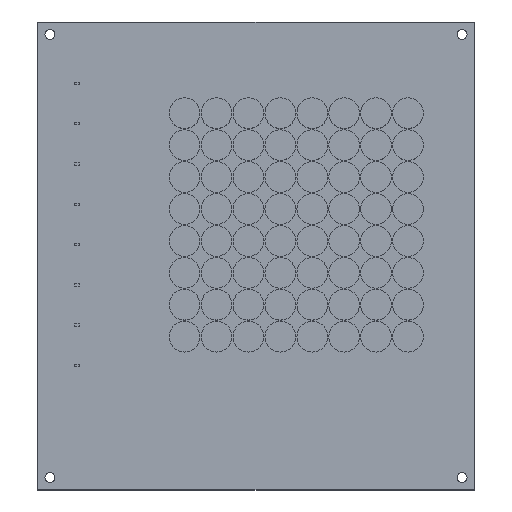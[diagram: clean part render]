
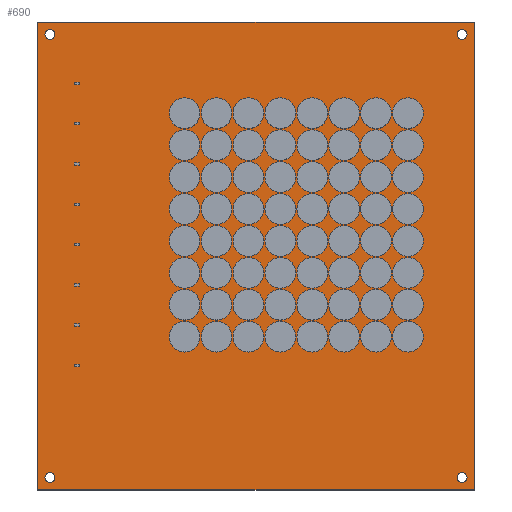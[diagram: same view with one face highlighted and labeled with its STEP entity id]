
A CAD part, top view. The second image highlights one B-rep face of the part: STEP entity #690.
In plain terms, the highlighted planar face has unit normal (0, 0, 1).
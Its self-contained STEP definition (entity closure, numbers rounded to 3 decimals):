
#99 = VERTEX_POINT ( 'NONE', #14305 ) ;
#598 = ORIENTED_EDGE ( 'NONE', *, *, #9188, .F. ) ;
#690 = ADVANCED_FACE ( 'NONE', ( #31261, #34228, #20511, #37862, #41564 ), #34453, .T. ) ;
#1284 = CARTESIAN_POINT ( 'NONE',  ( 57.5, -85.5, 0. ) ) ;
#1341 = EDGE_CURVE ( 'NONE', #13573, #10717, #11696, .T. ) ;
#1380 = DIRECTION ( 'NONE',  ( 0., 0., 1. ) ) ;
#1495 = EDGE_CURVE ( 'NONE', #3597, #99, #2801, .T. ) ;
#1526 = VERTEX_POINT ( 'NONE', #24731 ) ;
#1972 = CIRCLE ( 'NONE', #37694, 1.6 ) ;
#2392 = EDGE_CURVE ( 'NONE', #37556, #41852, #1972, .T. ) ;
#2581 = CARTESIAN_POINT ( 'NONE',  ( 51.9, 61.5, 0. ) ) ;
#2801 = LINE ( 'NONE', #16768, #43102 ) ;
#3342 = CARTESIAN_POINT ( 'NONE',  ( 55.1, -81.5, 0. ) ) ;
#3524 = LINE ( 'NONE', #35296, #15181 ) ;
#3597 = VERTEX_POINT ( 'NONE', #33412 ) ;
#3746 = DIRECTION ( 'NONE',  ( 1., 0., 0. ) ) ;
#4304 = ORIENTED_EDGE ( 'NONE', *, *, #2392, .F. ) ;
#4359 = CARTESIAN_POINT ( 'NONE',  ( -79.5, 61.5, 0. ) ) ;
#5525 = CARTESIAN_POINT ( 'NONE',  ( -77.9, -81.5, 0. ) ) ;
#6433 = DIRECTION ( 'NONE',  ( 1., 0., 0. ) ) ;
#8288 = EDGE_CURVE ( 'NONE', #44696, #11827, #3524, .T. ) ;
#8439 = CARTESIAN_POINT ( 'NONE',  ( 53.5, -81.5, 0. ) ) ;
#9002 = EDGE_CURVE ( 'NONE', #41852, #37556, #19122, .T. ) ;
#9146 = DIRECTION ( 'NONE',  ( 0., 0., 1. ) ) ;
#9188 = EDGE_CURVE ( 'NONE', #15100, #42547, #40249, .T. ) ;
#9641 = DIRECTION ( 'NONE',  ( 1., 0., 0. ) ) ;
#10211 = ORIENTED_EDGE ( 'NONE', *, *, #8288, .T. ) ;
#10632 = DIRECTION ( 'NONE',  ( -1., 0., 0. ) ) ;
#10687 = DIRECTION ( 'NONE',  ( 1., 0., 0. ) ) ;
#10717 = VERTEX_POINT ( 'NONE', #39480 ) ;
#11696 = CIRCLE ( 'NONE', #14635, 1.6 ) ;
#11827 = VERTEX_POINT ( 'NONE', #31717 ) ;
#12694 = CARTESIAN_POINT ( 'NONE',  ( 53.5, 61.5, 0. ) ) ;
#12820 = LINE ( 'NONE', #26750, #13462 ) ;
#13372 = AXIS2_PLACEMENT_3D ( 'NONE', #14081, #20444, #3746 ) ;
#13462 = VECTOR ( 'NONE', #20087, 1000. ) ;
#13573 = VERTEX_POINT ( 'NONE', #2581 ) ;
#14081 = CARTESIAN_POINT ( 'NONE',  ( 53.5, 61.5, 0. ) ) ;
#14305 = CARTESIAN_POINT ( 'NONE',  ( 57.5, -85.5, 0. ) ) ;
#14635 = AXIS2_PLACEMENT_3D ( 'NONE', #12694, #40312, #43328 ) ;
#14878 = DIRECTION ( 'NONE',  ( 0., 0., 1. ) ) ;
#15100 = VERTEX_POINT ( 'NONE', #31493 ) ;
#15181 = VECTOR ( 'NONE', #10632, 1000. ) ;
#16269 = DIRECTION ( 'NONE',  ( 1., 0., 0. ) ) ;
#16768 = CARTESIAN_POINT ( 'NONE',  ( -83.5, -85.5, 0. ) ) ;
#16902 = EDGE_LOOP ( 'NONE', ( #598, #33145 ) ) ;
#17432 = CARTESIAN_POINT ( 'NONE',  ( 53.5, -81.5, 0. ) ) ;
#18534 = CIRCLE ( 'NONE', #36774, 1.6 ) ;
#19122 = CIRCLE ( 'NONE', #44677, 1.6 ) ;
#20087 = DIRECTION ( 'NONE',  ( 0., -1., 0. ) ) ;
#20318 = EDGE_LOOP ( 'NONE', ( #24743, #30322 ) ) ;
#20444 = DIRECTION ( 'NONE',  ( 0., 0., 1. ) ) ;
#20511 = FACE_OUTER_BOUND ( 'NONE', #32565, .T. ) ;
#21384 = DIRECTION ( 'NONE',  ( 0., 1., 0. ) ) ;
#21579 = DIRECTION ( 'NONE',  ( 1., 0., 0. ) ) ;
#21687 = DIRECTION ( 'NONE',  ( 1., 0., 0. ) ) ;
#21843 = CARTESIAN_POINT ( 'NONE',  ( -77.9, 61.5, 0. ) ) ;
#22063 = LINE ( 'NONE', #1284, #43967 ) ;
#22516 = EDGE_LOOP ( 'NONE', ( #32312, #30126 ) ) ;
#23614 = CIRCLE ( 'NONE', #26601, 1.6 ) ;
#24098 = EDGE_LOOP ( 'NONE', ( #4304, #44175 ) ) ;
#24731 = CARTESIAN_POINT ( 'NONE',  ( 51.9, -81.5, 0. ) ) ;
#24743 = ORIENTED_EDGE ( 'NONE', *, *, #43181, .F. ) ;
#25023 = CARTESIAN_POINT ( 'NONE',  ( -79.5, -81.5, 0. ) ) ;
#25277 = EDGE_CURVE ( 'NONE', #10717, #13573, #35122, .T. ) ;
#26601 = AXIS2_PLACEMENT_3D ( 'NONE', #8439, #1380, #29287 ) ;
#26750 = CARTESIAN_POINT ( 'NONE',  ( -83.5, 65.5, 0. ) ) ;
#28225 = VERTEX_POINT ( 'NONE', #3342 ) ;
#29287 = DIRECTION ( 'NONE',  ( 1., 0., 0. ) ) ;
#30126 = ORIENTED_EDGE ( 'NONE', *, *, #25277, .F. ) ;
#30322 = ORIENTED_EDGE ( 'NONE', *, *, #36057, .F. ) ;
#31261 = FACE_BOUND ( 'NONE', #24098, .T. ) ;
#31493 = CARTESIAN_POINT ( 'NONE',  ( -81.1, 61.5, 0. ) ) ;
#31546 = AXIS2_PLACEMENT_3D ( 'NONE', #4359, #32263, #42801 ) ;
#31595 = DIRECTION ( 'NONE',  ( 0., 0., 1. ) ) ;
#31717 = CARTESIAN_POINT ( 'NONE',  ( -83.5, 65.5, 0. ) ) ;
#32263 = DIRECTION ( 'NONE',  ( 0., 0., 1. ) ) ;
#32312 = ORIENTED_EDGE ( 'NONE', *, *, #1341, .F. ) ;
#32463 = EDGE_CURVE ( 'NONE', #42547, #15100, #40317, .T. ) ;
#32565 = EDGE_LOOP ( 'NONE', ( #41885, #45068, #38736, #10211 ) ) ;
#33145 = ORIENTED_EDGE ( 'NONE', *, *, #32463, .F. ) ;
#33412 = CARTESIAN_POINT ( 'NONE',  ( -83.5, -85.5, 0. ) ) ;
#34228 = FACE_BOUND ( 'NONE', #16902, .T. ) ;
#34453 = PLANE ( 'NONE',  #45196 ) ;
#35122 = CIRCLE ( 'NONE', #13372, 1.6 ) ;
#35296 = CARTESIAN_POINT ( 'NONE',  ( 57.5, 65.5, 0. ) ) ;
#36046 = CARTESIAN_POINT ( 'NONE',  ( 57.5, 65.5, 0. ) ) ;
#36057 = EDGE_CURVE ( 'NONE', #28225, #1526, #23614, .T. ) ;
#36190 = EDGE_CURVE ( 'NONE', #11827, #3597, #12820, .T. ) ;
#36192 = DIRECTION ( 'NONE',  ( 0., 0., 1. ) ) ;
#36774 = AXIS2_PLACEMENT_3D ( 'NONE', #17432, #31595, #9641 ) ;
#37556 = VERTEX_POINT ( 'NONE', #44954 ) ;
#37694 = AXIS2_PLACEMENT_3D ( 'NONE', #25023, #36192, #21579 ) ;
#37862 = FACE_BOUND ( 'NONE', #22516, .T. ) ;
#38098 = CARTESIAN_POINT ( 'NONE',  ( 0., 0., 0. ) ) ;
#38736 = ORIENTED_EDGE ( 'NONE', *, *, #41288, .T. ) ;
#39292 = CARTESIAN_POINT ( 'NONE',  ( -79.5, 61.5, 0. ) ) ;
#39480 = CARTESIAN_POINT ( 'NONE',  ( 55.1, 61.5, 0. ) ) ;
#40249 = CIRCLE ( 'NONE', #43225, 1.6 ) ;
#40312 = DIRECTION ( 'NONE',  ( 0., 0., 1. ) ) ;
#40317 = CIRCLE ( 'NONE', #31546, 1.6 ) ;
#40482 = CARTESIAN_POINT ( 'NONE',  ( -79.5, -81.5, 0. ) ) ;
#41288 = EDGE_CURVE ( 'NONE', #99, #44696, #22063, .T. ) ;
#41564 = FACE_BOUND ( 'NONE', #20318, .T. ) ;
#41852 = VERTEX_POINT ( 'NONE', #5525 ) ;
#41885 = ORIENTED_EDGE ( 'NONE', *, *, #36190, .T. ) ;
#42020 = DIRECTION ( 'NONE',  ( 0., 0., 1. ) ) ;
#42547 = VERTEX_POINT ( 'NONE', #21843 ) ;
#42801 = DIRECTION ( 'NONE',  ( 1., 0., 0. ) ) ;
#43102 = VECTOR ( 'NONE', #6433, 1000. ) ;
#43181 = EDGE_CURVE ( 'NONE', #1526, #28225, #18534, .T. ) ;
#43225 = AXIS2_PLACEMENT_3D ( 'NONE', #39292, #14878, #21687 ) ;
#43328 = DIRECTION ( 'NONE',  ( 1., 0., 0. ) ) ;
#43967 = VECTOR ( 'NONE', #21384, 1000. ) ;
#44175 = ORIENTED_EDGE ( 'NONE', *, *, #9002, .F. ) ;
#44677 = AXIS2_PLACEMENT_3D ( 'NONE', #40482, #9146, #16269 ) ;
#44696 = VERTEX_POINT ( 'NONE', #36046 ) ;
#44954 = CARTESIAN_POINT ( 'NONE',  ( -81.1, -81.5, 0. ) ) ;
#45068 = ORIENTED_EDGE ( 'NONE', *, *, #1495, .T. ) ;
#45196 = AXIS2_PLACEMENT_3D ( 'NONE', #38098, #42020, #10687 ) ;
